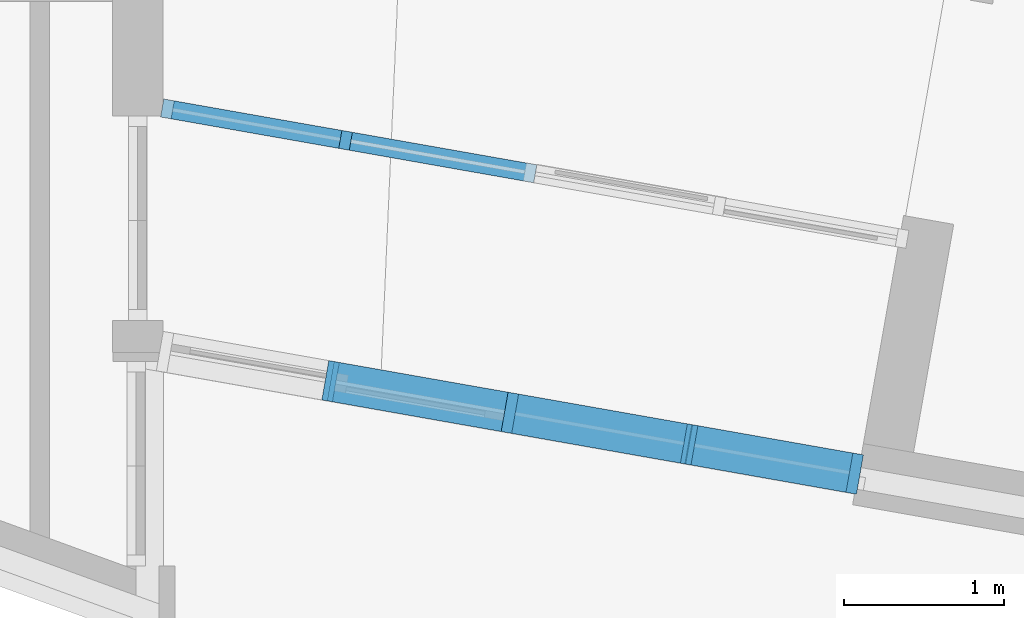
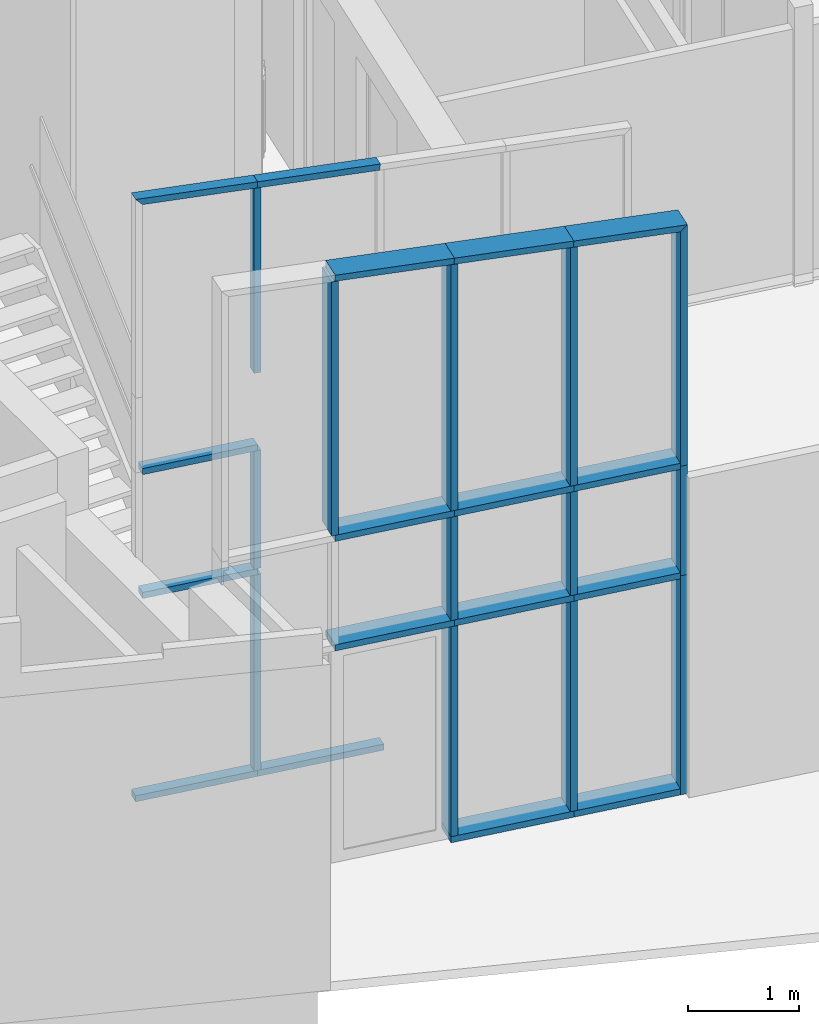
# One storey, part 2 of 21: 30 members, 2 elements without a shape of their own.
"""IFC2X3 building model written with IfcOpenShell, lengths in millimetres."""

from ifc_helpers import new_model, entity, si_unit, converted_unit, derived_unit, direction, frame, origin, origin_2d_with_axis, place, context, subcontext, project, spatial, polyline, rectangle, extrude, clip, halfspace, bounded_halfspace, source, transform, mapped, material, type_object, type_shapes, element, aggregate, save


model = new_model("IFC2X3")

# Units and contexts
model_context = context("Model", 3, precision=0.01, world=origin(), true_north=direction((6.12303176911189e-17, 1.0)))
body_context = subcontext(model_context, "Body", "Model", "MODEL_VIEW")
ifc_project = project(units=[si_unit("LENGTHUNIT", "METRE", prefix="MILLI"), si_unit("AREAUNIT", "SQUARE_METRE"), si_unit("VOLUMEUNIT", "CUBIC_METRE"), converted_unit("PLANEANGLEUNIT", "DEGREE", entity("IfcRatioMeasure", 0.0174532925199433), si_unit("PLANEANGLEUNIT", "RADIAN"), dimensions=[0, 0, 0, 0, 0, 0, 0]), si_unit("MASSUNIT", "GRAM", prefix="KILO"), derived_unit("MASSDENSITYUNIT", [(si_unit("MASSUNIT", "GRAM", prefix="KILO"), 1), (si_unit("LENGTHUNIT", "METRE"), -3)]), si_unit("TIMEUNIT", "SECOND"), si_unit("FREQUENCYUNIT", "HERTZ"), si_unit("THERMODYNAMICTEMPERATUREUNIT", "DEGREE_CELSIUS"), derived_unit("THERMALTRANSMITTANCEUNIT", [(si_unit("MASSUNIT", "GRAM", prefix="KILO"), 1), (si_unit("THERMODYNAMICTEMPERATUREUNIT", "KELVIN"), -1), (si_unit("TIMEUNIT", "SECOND"), -3)]), derived_unit("VOLUMETRICFLOWRATEUNIT", [(si_unit("LENGTHUNIT", "METRE"), 3), (si_unit("TIMEUNIT", "SECOND"), -1)]), si_unit("ELECTRICCURRENTUNIT", "AMPERE"), si_unit("ELECTRICVOLTAGEUNIT", "VOLT"), si_unit("POWERUNIT", "WATT"), si_unit("FORCEUNIT", "NEWTON", prefix="KILO"), si_unit("ILLUMINANCEUNIT", "LUX"), si_unit("LUMINOUSFLUXUNIT", "LUMEN"), si_unit("LUMINOUSINTENSITYUNIT", "CANDELA"), derived_unit("USERDEFINED", [(si_unit("MASSUNIT", "GRAM", prefix="KILO"), -1), (si_unit("LENGTHUNIT", "METRE"), -2), (si_unit("TIMEUNIT", "SECOND"), 3), (si_unit("LUMINOUSFLUXUNIT", "LUMEN"), 1)]), derived_unit("LINEARVELOCITYUNIT", [(si_unit("LENGTHUNIT", "METRE"), 1), (si_unit("TIMEUNIT", "SECOND"), -1)]), si_unit("PRESSUREUNIT", "PASCAL"), derived_unit("USERDEFINED", [(si_unit("LENGTHUNIT", "METRE"), -2), (si_unit("MASSUNIT", "GRAM", prefix="KILO"), 1), (si_unit("TIMEUNIT", "SECOND"), -2)])], contexts=[model_context])

# Site, building, storey
site_placement = place(None, origin())
site = spatial("IfcSite", under=ifc_project, at=site_placement, Name="<Kadaster Gemeente>;<Kadaster nummer>;<Kadaster sectie>", CompositionType="ELEMENT")
building_placement = place(site_placement, origin())
building = spatial("IfcBuilding", under=site, at=building_placement, Name="JRCZ Middelburg", CompositionType="ELEMENT")
storey_placement = place(building_placement, origin())
storey = spatial("IfcBuildingStorey", under=building, at=storey_placement, Name="00 begane grond", CompositionType="ELEMENT", Elevation=0.0)

# Curtain wall, members
curtain_wall_type_1 = type_object("IfcCurtainWallType", Name="Curtain Wall:vliesgevel B", PredefinedType="NOTDEFINED")
curtain_wall_1_placement = place(storey_placement, origin())
curtain_wall_1 = element("IfcCurtainWall", 1, at=curtain_wall_1_placement, inside=storey, type_object=curtain_wall_type_1, Name="Curtain Wall:vliesgevel B", ObjectType="Curtain Wall:vliesgevel B")
ifc_material_1 = material(Name="RBM_i2_binnenkozijn")
member_type_1 = type_object("IfcMemberType", Name="32_CWM_067x114", PredefinedType="MEMBER")
shared_shape_1 = source(origin(), body_context, "Body", "SweptSolid", [
    extrude(rectangle(XDim=113.999999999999, YDim=67.0, at=origin_2d_with_axis()), frame((0.0, 0.0, -2144.16666666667), z_axis=(0.0, 0.0, 1.0), x_axis=(0.0, -1.0, 0.0)), (0.0, 0.0, 1.0), 2144.16666666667),
])
type_shapes(member_type_1, [shared_shape_1])
member_1_placement = place(storey_placement, frame((18510.4603234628, 8975.91689132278, 67.0), z_axis=(0.0, 0.0, -1.0), x_axis=(0.984807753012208, -0.173648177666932, 0.0)))
member_1 = element("IfcMember", 2, at=member_1_placement, type_object=member_type_1, material=ifc_material_1, Name="Rectangular Mullion:32_CWM_067x114", ObjectType="Rectangular Mullion:32_CWM_067x114", context=body_context, shape_type="MappedRepresentation", body=[
    mapped(shared_shape_1, transform((0.0, 0.0, 0.0), scale=1.0)),
])
member_type_2 = type_object("IfcMemberType", Name="32_CWM_067x114", PredefinedType="MEMBER")
shared_shape_2 = source(origin(), body_context, "Body", "SweptSolid", [
    extrude(rectangle(XDim=113.999999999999, YDim=67.0, at=origin_2d_with_axis()), frame((-33.5, 0.0, -1165.92331848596), z_axis=(0.0, 0.0, 1.0), x_axis=(0.0, -1.0, 0.0)), (0.0, 0.0, 1.0), 1165.92331848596),
])
type_shapes(member_type_2, [shared_shape_2])
member_2_placement = place(storey_placement, frame((17362.2500000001, 9178.37735087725, 0.0), z_axis=(-0.984807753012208, 0.173648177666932, 0.0), x_axis=(0.0, 0.0, -1.0)))
member_2 = element("IfcMember", 3, at=member_2_placement, type_object=member_type_2, material=ifc_material_1, Name="Rectangular Mullion:32_CWM_067x114", ObjectType="Rectangular Mullion:32_CWM_067x114", context=body_context, shape_type="MappedRepresentation", body=[
    mapped(shared_shape_2, transform((0.0, 0.0, 0.0), scale=1.0)),
])
member_type_3 = type_object("IfcMemberType", Name="32_CWM_067x114", PredefinedType="MEMBER")
shared_shape_3 = source(origin(), body_context, "Body", "SweptSolid", [
    extrude(rectangle(XDim=113.999999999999, YDim=67.0, at=origin_2d_with_axis()), frame((0.0, 0.0, -1290.66666666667), z_axis=(0.0, 0.0, 1.0), x_axis=(0.0, -1.0, 0.0)), (0.0, 0.0, 1.0), 1290.66666666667),
])
type_shapes(member_type_3, [shared_shape_3])
member_3_placement = place(storey_placement, frame((18510.4603234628, 8975.91689132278, 2278.16666666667), z_axis=(0.0, 0.0, -1.0), x_axis=(0.984807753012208, -0.173648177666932, 0.0)))
member_3 = element("IfcMember", 4, at=member_3_placement, type_object=member_type_3, material=ifc_material_1, Name="Rectangular Mullion:32_CWM_067x114", ObjectType="Rectangular Mullion:32_CWM_067x114", context=body_context, shape_type="MappedRepresentation", body=[
    mapped(shared_shape_3, transform((0.0, 0.0, 0.0), scale=1.0)),
])
member_type_4 = type_object("IfcMemberType", Name="32_CWM_067x114", PredefinedType="MEMBER")
shared_shape_4 = source(origin(), body_context, "Body", "SweptSolid", [
    extrude(rectangle(XDim=113.999999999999, YDim=67.0, at=origin_2d_with_axis()), frame((0.0, 0.0, -1098.92331848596), z_axis=(0.0, 0.0, 1.0), x_axis=(0.0, -1.0, 0.0)), (0.0, 0.0, 1.0), 1098.92331848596),
])
type_shapes(member_type_4, [shared_shape_4])
member_4_placement = place(storey_placement, frame((18510.4603234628, 8975.91689132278, 2244.66666666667), z_axis=(0.984807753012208, -0.173648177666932, 0.0), x_axis=(0.0, 0.0, 1.0)))
member_4 = element("IfcMember", 5, at=member_4_placement, type_object=member_type_4, material=ifc_material_1, Name="Rectangular Mullion:32_CWM_067x114", ObjectType="Rectangular Mullion:32_CWM_067x114", context=body_context, shape_type="MappedRepresentation", body=[
    mapped(shared_shape_4, transform((0.0, 0.0, 0.0), scale=1.0)),
])
member_5_placement = place(storey_placement, frame((18510.4603234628, 8975.91689132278, 3602.33333333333), z_axis=(0.984807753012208, -0.173648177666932, 0.0), x_axis=(0.0, 0.0, 1.0)))
member_5 = element("IfcMember", 6, at=member_5_placement, type_object=member_type_4, material=ifc_material_1, Name="Rectangular Mullion:32_CWM_067x114", ObjectType="Rectangular Mullion:32_CWM_067x114", context=body_context, shape_type="MappedRepresentation", body=[
    mapped(shared_shape_4, transform((0.0, 0.0, 0.0), scale=1.0)),
])
member_type_5 = type_object("IfcMemberType", Name="32_CWM_067x114", PredefinedType="MEMBER")
shared_shape_5 = source(origin(), body_context, "Body", "SweptSolid", [
    extrude(rectangle(XDim=113.999999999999, YDim=67.0, at=origin_2d_with_axis()), frame((-33.5, 0.0, -1175.37505643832), z_axis=(0.0, 0.0, 1.0), x_axis=(0.0, -1.0, 0.0)), (0.0, 0.0, 1.0), 1175.37505643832),
])
type_shapes(member_type_5, [shared_shape_5])
member_6_placement = place(storey_placement, frame((19664.9206469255, 8772.35438813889, 6429.69699909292), z_axis=(0.982205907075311, -0.173189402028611, -0.0726428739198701), x_axis=(0.0715392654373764, -0.0126143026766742, 0.997358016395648)))
member_6 = element("IfcMember", 7, at=member_6_placement, type_object=member_type_5, material=ifc_material_1, Name="Rectangular Mullion:32_CWM_067x114", ObjectType="Rectangular Mullion:32_CWM_067x114", context=body_context, shape_type="MappedRepresentation", body=[
    mapped(shared_shape_5, transform((0.0, 0.0, 0.0), scale=1.0)),
])
member_type_6 = type_object("IfcMemberType", Name="32_CWM_067x114", PredefinedType="MEMBER")
shared_shape_6 = source(origin(), body_context, "Body", "Clipping", [
    clip(extrude(rectangle(XDim=113.999999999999, YDim=67.0, at=origin_2d_with_axis()), frame((-33.5, 0.0, -1169.01182857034), z_axis=(0.0, 0.0, 1.0), x_axis=(0.0, -1.0, 0.0)), (0.0, 0.0, 1.0), 1169.01182857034), halfspace(frame((0.0, -304.799999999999, -1169.01182857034), z_axis=(-0.73233970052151, 0.0, -0.680939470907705), x_axis=(-0.680939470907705, 0.0, 0.73233970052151)), False)),
])
type_shapes(member_type_6, [shared_shape_6])
member_7_placement = place(storey_placement, frame((18510.4603234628, 8975.91689132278, 6515.07962112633), z_axis=(0.982205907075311, -0.173189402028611, -0.0726428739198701), x_axis=(0.0715392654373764, -0.0126143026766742, 0.997358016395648)))
member_7 = element("IfcMember", 8, at=member_7_placement, type_object=member_type_6, material=ifc_material_1, Name="Rectangular Mullion:32_CWM_067x114", ObjectType="Rectangular Mullion:32_CWM_067x114", context=body_context, shape_type="MappedRepresentation", body=[
    mapped(shared_shape_6, transform((0.0, 0.0, 0.0), scale=1.0)),
])
member_type_7 = type_object("IfcMemberType", Name="32_CWM_067x114", PredefinedType="MEMBER")
shared_shape_7 = source(origin(), body_context, "Body", "SweptSolid", [
    extrude(rectangle(XDim=113.999999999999, YDim=67.0, at=origin_2d_with_axis()), frame((-33.5, 0.0, -1205.76973481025), z_axis=(0.0, 0.0, 1.0), x_axis=(0.0, -1.0, 0.0)), (0.0, 0.0, 1.0), 1205.76973481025),
])
type_shapes(member_type_7, [shared_shape_7])
member_8_placement = place(storey_placement, frame((18510.4603234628, 8975.91689132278, 0.0), z_axis=(-0.984807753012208, 0.173648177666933, 0.0), x_axis=(0.0, 0.0, -1.0)))
member_8 = element("IfcMember", 9, at=member_8_placement, type_object=member_type_7, material=ifc_material_1, Name="Rectangular Mullion:32_CWM_067x114", ObjectType="Rectangular Mullion:32_CWM_067x114", context=body_context, shape_type="MappedRepresentation", body=[
    mapped(shared_shape_7, transform((0.0, 0.0, 0.0), scale=1.0)),
])
member_type_8 = type_object("IfcMemberType", Name="32_CWM_067x114", PredefinedType="MEMBER")
shared_shape_8 = source(origin(), body_context, "Body", "Clipping", [
    clip(clip(extrude(rectangle(XDim=113.999999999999, YDim=67.0, at=origin_2d_with_axis()), frame((0.0, 0.0, -2028.00878865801), z_axis=(0.0, 0.0, 1.0), x_axis=(0.0, -1.0, 0.0)), (0.0, 0.0, 1.0), 2028.00878865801), bounded_halfspace(frame((-4.86707255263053, 57.0, -2025.92330069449), z_axis=(0.0726428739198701, 0.0, -0.997358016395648), x_axis=(-0.997358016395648, 0.0, -0.0726428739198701)), False, frame((0.0, 0.0, -2028.00878865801), z_axis=(0.0, 0.0, 1.0), x_axis=(0.0, -1.0, 0.0)), polyline([(57.0, -4.86707255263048), (57.0, -33.5), (-57.0, -33.5), (-57.0, -4.86707255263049), (57.0, -4.86707255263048)]))), bounded_halfspace(frame((1167.40266225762, 57.0, -1940.54067866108), z_axis=(0.0726428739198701, 0.0, -0.997358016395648), x_axis=(-0.997358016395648, 0.0, -0.0726428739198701)), False, frame((0.0, 0.0, -2028.00878865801), z_axis=(0.0, 0.0, 1.0), x_axis=(0.0, -1.0, 0.0)), polyline([(-57.0, 33.5), (57.0, 33.5), (57.0, -4.86707255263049), (-57.0, -4.86707255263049), (-57.0, 33.5)]))),
])
type_shapes(member_type_8, [shared_shape_8])
member_9_placement = place(storey_placement, frame((18510.4603234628, 8975.91689132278, 4422.33333333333), z_axis=(0.0, 0.0, -1.0), x_axis=(0.984807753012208, -0.173648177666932, 0.0)))
member_9 = element("IfcMember", 10, at=member_9_placement, type_object=member_type_8, material=ifc_material_1, Name="Rectangular Mullion:32_CWM_067x114", ObjectType="Rectangular Mullion:32_CWM_067x114", context=body_context, shape_type="MappedRepresentation", body=[
    mapped(shared_shape_8, transform((0.0, 0.0, 0.0), scale=1.0)),
])
aggregate(curtain_wall_1, [member_2, member_4, member_6, member_5, member_7, member_8, member_1, member_3, member_9])

curtain_wall_type_2 = type_object("IfcCurtainWallType", Name="Curtain Wall:vliesgevel A", PredefinedType="NOTDEFINED")
curtain_wall_2_placement = place(storey_placement, origin())
curtain_wall_2 = element("IfcCurtainWall", 11, at=curtain_wall_2_placement, inside=storey, type_object=curtain_wall_type_2, Name="Curtain Wall:vliesgevel A", ObjectType="Curtain Wall:vliesgevel A")
ifc_material_2 = material(Name="RBM_a_kozijn licht")
member_type_9 = type_object("IfcMemberType", Name="31_CWM_067x114 vliesgevel", PredefinedType="MEMBER")
shared_shape_9 = source(origin(), body_context, "Body", "SweptSolid", [
    extrude(rectangle(XDim=250.0, YDim=67.0, at=origin_2d_with_axis()), frame((0.0, -57.0, -2299.5), z_axis=(0.0, 0.0, 1.0), x_axis=(0.0, -1.0, 0.0)), (0.0, 0.0, 1.0), 2299.5),
])
type_shapes(member_type_9, [shared_shape_9])
member_10_placement = place(storey_placement, frame((19548.7500160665, 7326.56237716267, 67.0), z_axis=(0.0, 0.0, -1.0), x_axis=(-0.984807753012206, 0.173648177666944, 0.0)))
member_10 = element("IfcMember", 12, at=member_10_placement, type_object=member_type_9, material=ifc_material_2, Name="Rectangular Mullion:31_CWM_067x114 vliesgevel", ObjectType="Rectangular Mullion:31_CWM_067x114 vliesgevel", context=body_context, shape_type="MappedRepresentation", body=[
    mapped(shared_shape_9, transform((0.0, 0.0, 0.0), scale=1.0)),
])
member_11_placement = place(storey_placement, frame((20670.9963109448, 7128.68007637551, 67.0), z_axis=(0.0, 0.0, -1.0), x_axis=(-0.984807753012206, 0.173648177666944, 0.0)))
member_11 = element("IfcMember", 13, at=member_11_placement, type_object=member_type_9, material=ifc_material_2, Name="Rectangular Mullion:31_CWM_067x114 vliesgevel", ObjectType="Rectangular Mullion:31_CWM_067x114 vliesgevel", context=body_context, shape_type="MappedRepresentation", body=[
    mapped(shared_shape_9, transform((0.0, 0.0, 0.0), scale=1.0)),
])
member_type_10 = type_object("IfcMemberType", Name="31_CWM_067x114 vliesgevel", PredefinedType="MEMBER")
shared_shape_10 = source(origin(), body_context, "Body", "SweptSolid", [
    extrude(rectangle(XDim=250.0, YDim=67.0, at=origin_2d_with_axis()), frame((0.0, -57.0, -1133.0), z_axis=(0.0, 0.0, 1.0), x_axis=(0.0, -1.0, 0.0)), (0.0, 0.0, 1.0), 1133.0),
])
type_shapes(member_type_10, [shared_shape_10])
member_12_placement = place(storey_placement, frame((20670.9963109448, 7128.68007637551, 2433.5), z_axis=(0.0, 0.0, -1.0), x_axis=(-0.984807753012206, 0.173648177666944, 0.0)))
member_12 = element("IfcMember", 14, at=member_12_placement, type_object=member_type_10, material=ifc_material_2, Name="Rectangular Mullion:31_CWM_067x114 vliesgevel", ObjectType="Rectangular Mullion:31_CWM_067x114 vliesgevel", context=body_context, shape_type="MappedRepresentation", body=[
    mapped(shared_shape_10, transform((0.0, 0.0, 0.0), scale=1.0)),
])
member_13_placement = place(storey_placement, frame((19548.7500160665, 7326.56237716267, 2433.5), z_axis=(0.0, 0.0, -1.0), x_axis=(-0.984807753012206, 0.173648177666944, 0.0)))
member_13 = element("IfcMember", 15, at=member_13_placement, type_object=member_type_10, material=ifc_material_2, Name="Rectangular Mullion:31_CWM_067x114 vliesgevel", ObjectType="Rectangular Mullion:31_CWM_067x114 vliesgevel", context=body_context, shape_type="MappedRepresentation", body=[
    mapped(shared_shape_10, transform((0.0, 0.0, 0.0), scale=1.0)),
])
member_type_11 = type_object("IfcMemberType", Name="31_CWM_067x114 vliesgevel", PredefinedType="MEMBER")
shared_shape_11 = source(origin(), body_context, "Body", "SweptSolid", [
    extrude(rectangle(XDim=250.0, YDim=67.0, at=origin_2d_with_axis()), frame((-33.5, -57.0, -2400.0), z_axis=(0.0, 0.0, 1.0), x_axis=(0.0, -1.0, 0.0)), (0.0, 0.0, 1.0), 2400.0),
])
type_shapes(member_type_11, [shared_shape_11])
member_14_placement = place(storey_placement, frame((21740.0629871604, 6940.17477718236, 2400.0), z_axis=(0.0, 0.0, 1.0), x_axis=(0.984807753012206, -0.173648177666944, 0.0)))
member_14 = element("IfcMember", 16, at=member_14_placement, type_object=member_type_11, material=ifc_material_2, Name="Rectangular Mullion:31_CWM_067x114 vliesgevel", ObjectType="Rectangular Mullion:31_CWM_067x114 vliesgevel", context=body_context, shape_type="MappedRepresentation", body=[
    mapped(shared_shape_11, transform((0.0, 0.0, 0.0), scale=1.0)),
])
member_type_12 = type_object("IfcMemberType", Name="31_CWM_067x114 vliesgevel", PredefinedType="MEMBER")
shared_shape_12 = source(origin(), body_context, "Body", "SweptSolid", [
    extrude(rectangle(XDim=250.0, YDim=67.0, at=origin_2d_with_axis()), frame((-33.5, -57.0, -1200.0), z_axis=(0.0, 0.0, 1.0), x_axis=(0.0, -1.0, 0.0)), (0.0, 0.0, 1.0), 1200.0),
])
type_shapes(member_type_12, [shared_shape_12])
member_15_placement = place(storey_placement, frame((21740.0629871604, 6940.17477718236, 3600.0), z_axis=(0.0, 0.0, 1.0), x_axis=(0.984807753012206, -0.173648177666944, 0.0)))
member_15 = element("IfcMember", 17, at=member_15_placement, type_object=member_type_12, material=ifc_material_2, Name="Rectangular Mullion:31_CWM_067x114 vliesgevel", ObjectType="Rectangular Mullion:31_CWM_067x114 vliesgevel", context=body_context, shape_type="MappedRepresentation", body=[
    mapped(shared_shape_12, transform((0.0, 0.0, 0.0), scale=1.0)),
])
member_type_13 = type_object("IfcMemberType", Name="31_CWM_067x114 vliesgevel", PredefinedType="MEMBER")
shared_shape_13 = source(origin(), body_context, "Body", "SweptSolid", [
    extrude(rectangle(XDim=250.0, YDim=67.0, at=origin_2d_with_axis()), frame((-33.5, -57.0, -1018.55875290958), z_axis=(0.0, 0.0, 1.0), x_axis=(0.0, -1.0, 0.0)), (0.0, 0.0, 1.0), 1018.55875290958),
])
type_shapes(member_type_13, [shared_shape_13])
member_16_placement = place(storey_placement, frame((21674.0808677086, 6951.80920508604, 0.0), z_axis=(0.984807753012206, -0.173648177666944, 0.0), x_axis=(0.0, 0.0, -1.0)))
member_16 = element("IfcMember", 18, at=member_16_placement, type_object=member_type_13, material=ifc_material_2, Name="Rectangular Mullion:31_CWM_067x114 vliesgevel", ObjectType="Rectangular Mullion:31_CWM_067x114 vliesgevel", context=body_context, shape_type="MappedRepresentation", body=[
    mapped(shared_shape_13, transform((0.0, 0.0, 0.0), scale=1.0)),
])
member_type_14 = type_object("IfcMemberType", Name="31_CWM_067x114 vliesgevel", PredefinedType="MEMBER")
shared_shape_14 = source(origin(), body_context, "Body", "Clipping", [
    clip(extrude(rectangle(XDim=250.0, YDim=67.0, at=origin_2d_with_axis()), frame((-33.5, -57.0, -2630.80126207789), z_axis=(0.0, 0.0, 1.0), x_axis=(0.0, -1.0, 0.0)), (0.0, 0.0, 1.0), 2630.80126207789), halfspace(frame((0.0, -304.8, 0.0), z_axis=(-0.680150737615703, 0.0, 0.733072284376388), x_axis=(-0.733072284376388, 0.0, -0.680150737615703)), False)),
])
type_shapes(member_type_14, [shared_shape_14])
member_17_placement = place(storey_placement, frame((21740.0629871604, 6940.17477718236, 6230.80126207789), z_axis=(0.0, 0.0, 1.0), x_axis=(0.984807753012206, -0.173648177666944, 0.0)))
member_17 = element("IfcMember", 19, at=member_17_placement, type_object=member_type_14, material=ifc_material_2, Name="Rectangular Mullion:31_CWM_067x114 vliesgevel", ObjectType="Rectangular Mullion:31_CWM_067x114 vliesgevel", context=body_context, shape_type="MappedRepresentation", body=[
    mapped(shared_shape_14, transform((0.0, 0.0, 0.0), scale=1.0)),
])
member_type_15 = type_object("IfcMemberType", Name="31_CWM_067x114 vliesgevel", PredefinedType="MEMBER")
shared_shape_15 = source(origin(), body_context, "Body", "SweptSolid", [
    extrude(rectangle(XDim=250.0, YDim=67.0, at=origin_2d_with_axis()), frame((-33.5, -57.0, -1142.75926748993), z_axis=(0.0, 0.0, 1.0), x_axis=(0.0, -1.0, 0.0)), (0.0, 0.0, 1.0), 1142.75926748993),
])
type_shapes(member_type_15, [shared_shape_15])
member_18_placement = place(storey_placement, frame((19548.7500160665, 7326.56237716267, 6397.68507501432), z_axis=(-0.982049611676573, 0.173161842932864, 0.0747899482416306), x_axis=(0.0736537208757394, -0.0129871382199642, 0.997199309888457)))
member_18 = element("IfcMember", 20, at=member_18_placement, type_object=member_type_15, material=ifc_material_2, Name="Rectangular Mullion:31_CWM_067x114 vliesgevel", ObjectType="Rectangular Mullion:31_CWM_067x114 vliesgevel", context=body_context, shape_type="MappedRepresentation", body=[
    mapped(shared_shape_15, transform((0.0, 0.0, 0.0), scale=1.0)),
])
member_type_16 = type_object("IfcMemberType", Name="31_CWM_067x114 vliesgevel", PredefinedType="MEMBER")
shared_shape_16 = source(origin(), body_context, "Body", "SweptSolid", [
    extrude(rectangle(XDim=250.0, YDim=67.0, at=origin_2d_with_axis()), frame((-33.5, -57.0, -1142.75926748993), z_axis=(0.0, 0.0, 1.0), x_axis=(0.0, -1.0, 0.0)), (0.0, 0.0, 1.0), 1142.75926748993),
])
type_shapes(member_type_16, [shared_shape_16])
member_19_placement = place(storey_placement, frame((18426.5037211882, 7524.44467794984, 6483.15198148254), z_axis=(-0.982049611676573, 0.173161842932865, 0.0747899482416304), x_axis=(0.0736537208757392, -0.0129871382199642, 0.997199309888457)))
member_19 = element("IfcMember", 21, at=member_19_placement, type_object=member_type_16, material=ifc_material_2, Name="Rectangular Mullion:31_CWM_067x114 vliesgevel", ObjectType="Rectangular Mullion:31_CWM_067x114 vliesgevel", context=body_context, shape_type="MappedRepresentation", body=[
    mapped(shared_shape_16, transform((0.0, 0.0, 0.0), scale=1.0)),
])
member_type_17 = type_object("IfcMemberType", Name="31_CWM_067x114 vliesgevel", PredefinedType="MEMBER")
shared_shape_17 = source(origin(), body_context, "Body", "Clipping", [
    clip(extrude(rectangle(XDim=250.0, YDim=67.0, at=origin_2d_with_axis()), frame((-33.5, -57.0, -1088.60760546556), z_axis=(0.0, 0.0, 1.0), x_axis=(0.0, -1.0, 0.0)), (0.0, 0.0, 1.0), 1088.60760546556), halfspace(frame((0.0, -304.8, -1088.60760546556), z_axis=(-0.680150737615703, 0.0, -0.733072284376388), x_axis=(-0.733072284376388, 0.0, 0.680150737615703)), False)),
])
type_shapes(member_type_17, [shared_shape_17])
member_20_placement = place(storey_placement, frame((20670.9963109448, 7128.68007637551, 6312.21816854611), z_axis=(-0.982049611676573, 0.173161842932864, 0.0747899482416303), x_axis=(0.0736537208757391, -0.0129871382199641, 0.997199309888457)))
member_20 = element("IfcMember", 22, at=member_20_placement, type_object=member_type_17, material=ifc_material_2, Name="Rectangular Mullion:31_CWM_067x114 vliesgevel", ObjectType="Rectangular Mullion:31_CWM_067x114 vliesgevel", context=body_context, shape_type="MappedRepresentation", body=[
    mapped(shared_shape_17, transform((0.0, 0.0, 0.0), scale=1.0)),
])
member_type_18 = type_object("IfcMemberType", Name="31_CWM_067x114 vliesgevel", PredefinedType="MEMBER")
shared_shape_18 = source(origin(), body_context, "Body", "SweptSolid", [
    extrude(rectangle(XDim=250.0, YDim=67.0, at=origin_2d_with_axis()), frame((-33.5, -57.0, -1173.05875290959), z_axis=(0.0, 0.0, 1.0), x_axis=(0.0, -1.0, 0.0)), (0.0, 0.0, 1.0), 1173.05875290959),
])
type_shapes(member_type_18, [shared_shape_18])
member_21_placement = place(storey_placement, frame((20670.9963109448, 7128.68007637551, 0.0), z_axis=(0.984807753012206, -0.173648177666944, 0.0), x_axis=(0.0, 0.0, -1.0)))
member_21 = element("IfcMember", 23, at=member_21_placement, type_object=member_type_18, material=ifc_material_2, Name="Rectangular Mullion:31_CWM_067x114 vliesgevel", ObjectType="Rectangular Mullion:31_CWM_067x114 vliesgevel", context=body_context, shape_type="MappedRepresentation", body=[
    mapped(shared_shape_18, transform((0.0, 0.0, 0.0), scale=1.0)),
])
member_type_19 = type_object("IfcMemberType", Name="31_CWM_067x114 vliesgevel", PredefinedType="MEMBER")
shared_shape_19 = source(origin(), body_context, "Body", "SweptSolid", [
    extrude(rectangle(XDim=250.0, YDim=67.0, at=origin_2d_with_axis()), frame((0.0, -57.0, -1018.55875290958), z_axis=(0.0, 0.0, 1.0), x_axis=(0.0, -1.0, 0.0)), (0.0, 0.0, 1.0), 1018.55875290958),
])
type_shapes(member_type_19, [shared_shape_19])
member_22_placement = place(storey_placement, frame((20670.9963109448, 7128.68007637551, 2400.0), z_axis=(-0.984807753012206, 0.173648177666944, 0.0), x_axis=(0.0, 0.0, 1.0)))
member_22 = element("IfcMember", 24, at=member_22_placement, type_object=member_type_19, material=ifc_material_2, Name="Rectangular Mullion:31_CWM_067x114 vliesgevel", ObjectType="Rectangular Mullion:31_CWM_067x114 vliesgevel", context=body_context, shape_type="MappedRepresentation", body=[
    mapped(shared_shape_19, transform((0.0, 0.0, 0.0), scale=1.0)),
])
member_23_placement = place(storey_placement, frame((20670.9963109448, 7128.68007637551, 3600.0), z_axis=(-0.984807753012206, 0.173648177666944, 0.0), x_axis=(0.0, 0.0, 1.0)))
member_23 = element("IfcMember", 25, at=member_23_placement, type_object=member_type_19, material=ifc_material_2, Name="Rectangular Mullion:31_CWM_067x114 vliesgevel", ObjectType="Rectangular Mullion:31_CWM_067x114 vliesgevel", context=body_context, shape_type="MappedRepresentation", body=[
    mapped(shared_shape_19, transform((0.0, 0.0, 0.0), scale=1.0)),
])
member_type_20 = type_object("IfcMemberType", Name="31_CWM_067x114 vliesgevel", PredefinedType="MEMBER")
shared_shape_20 = source(origin(), body_context, "Body", "SweptSolid", [
    extrude(rectangle(XDim=250.0, YDim=67.0, at=origin_2d_with_axis()), frame((0.0, -57.0, -1139.55875290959), z_axis=(0.0, 0.0, 1.0), x_axis=(0.0, -1.0, 0.0)), (0.0, 0.0, 1.0), 1139.55875290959),
])
type_shapes(member_type_20, [shared_shape_20])
member_24_placement = place(storey_placement, frame((19548.7500160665, 7326.56237716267, 2400.0), z_axis=(-0.984807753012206, 0.173648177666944, 0.0), x_axis=(0.0, 0.0, 1.0)))
member_24 = element("IfcMember", 26, at=member_24_placement, type_object=member_type_20, material=ifc_material_2, Name="Rectangular Mullion:31_CWM_067x114 vliesgevel", ObjectType="Rectangular Mullion:31_CWM_067x114 vliesgevel", context=body_context, shape_type="MappedRepresentation", body=[
    mapped(shared_shape_20, transform((0.0, 0.0, 0.0), scale=1.0)),
])
member_25_placement = place(storey_placement, frame((18426.5037211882, 7524.44467794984, 2400.0), z_axis=(-0.984807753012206, 0.173648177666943, 0.0), x_axis=(0.0, 0.0, 1.0)))
member_25 = element("IfcMember", 27, at=member_25_placement, type_object=member_type_20, material=ifc_material_2, Name="Rectangular Mullion:31_CWM_067x114 vliesgevel", ObjectType="Rectangular Mullion:31_CWM_067x114 vliesgevel", context=body_context, shape_type="MappedRepresentation", body=[
    mapped(shared_shape_20, transform((0.0, 0.0, 0.0), scale=1.0)),
])
member_26_placement = place(storey_placement, frame((19548.7500160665, 7326.56237716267, 3600.0), z_axis=(-0.984807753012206, 0.173648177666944, 0.0), x_axis=(0.0, 0.0, 1.0)))
member_26 = element("IfcMember", 28, at=member_26_placement, type_object=member_type_20, material=ifc_material_2, Name="Rectangular Mullion:31_CWM_067x114 vliesgevel", ObjectType="Rectangular Mullion:31_CWM_067x114 vliesgevel", context=body_context, shape_type="MappedRepresentation", body=[
    mapped(shared_shape_20, transform((0.0, 0.0, 0.0), scale=1.0)),
])
member_27_placement = place(storey_placement, frame((18426.5037211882, 7524.44467794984, 3600.0), z_axis=(-0.984807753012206, 0.173648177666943, 0.0), x_axis=(0.0, 0.0, 1.0)))
member_27 = element("IfcMember", 29, at=member_27_placement, type_object=member_type_20, material=ifc_material_2, Name="Rectangular Mullion:31_CWM_067x114 vliesgevel", ObjectType="Rectangular Mullion:31_CWM_067x114 vliesgevel", context=body_context, shape_type="MappedRepresentation", body=[
    mapped(shared_shape_20, transform((0.0, 0.0, 0.0), scale=1.0)),
])
member_type_21 = type_object("IfcMemberType", Name="31_CWM_067x114 vliesgevel", PredefinedType="MEMBER")
shared_shape_21 = source(origin(), body_context, "Body", "Clipping", [
    clip(clip(extrude(rectangle(XDim=250.000000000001, YDim=67.0, at=origin_2d_with_axis()), frame((0.0, -57.0, -2614.04249529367), z_axis=(0.0, 0.0, 1.0), x_axis=(0.0, -1.0, 0.0)), (0.0, 0.0, 1.0), 2614.04249529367), bounded_halfspace(frame((1144.56967944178, 68.0, -2697.3727212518), z_axis=(-0.0747899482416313, 0.0, -0.997199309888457), x_axis=(-0.997199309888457, 0.0, 0.0747899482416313)), False, frame((0.0, -57.0, -2614.04249529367), z_axis=(0.0, 0.0, 1.0), x_axis=(0.0, -1.0, 0.0)), polyline([(-125.0, 33.5), (125.0, 33.5), (125.0, 5.01092653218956), (-125.0, 5.01092653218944), (-125.0, 33.5)]))), bounded_halfspace(frame((5.01092653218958, 68.0, -2611.90581478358), z_axis=(-0.074789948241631, 0.0, -0.997199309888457), x_axis=(-0.997199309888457, 0.0, 0.074789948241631)), False, frame((0.0, -57.0, -2614.04249529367), z_axis=(0.0, 0.0, 1.0), x_axis=(0.0, -1.0, 0.0)), polyline([(125.0, 5.01092653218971), (125.0, -33.5), (-125.0, -33.5), (-125.0, 5.01092653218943), (125.0, 5.01092653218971)]))),
])
type_shapes(member_type_21, [shared_shape_21])
member_28_placement = place(storey_placement, frame((20670.9963109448, 7128.68007637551, 3633.5), z_axis=(0.0, 0.0, -1.0), x_axis=(-0.984807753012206, 0.173648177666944, 0.0)))
member_28 = element("IfcMember", 30, at=member_28_placement, type_object=member_type_21, material=ifc_material_2, Name="Rectangular Mullion:31_CWM_067x114 vliesgevel", ObjectType="Rectangular Mullion:31_CWM_067x114 vliesgevel", context=body_context, shape_type="MappedRepresentation", body=[
    mapped(shared_shape_21, transform((0.0, 0.0, 0.0), scale=1.0)),
])
member_type_22 = type_object("IfcMemberType", Name="31_CWM_067x114 vliesgevel", PredefinedType="MEMBER")
shared_shape_22 = source(origin(), body_context, "Body", "Clipping", [
    clip(clip(extrude(rectangle(XDim=250.0, YDim=67.0, at=origin_2d_with_axis()), frame((0.0, -57.0, -2699.50940176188), z_axis=(0.0, 0.0, 1.0), x_axis=(0.0, -1.0, 0.0)), (0.0, 0.0, 1.0), 2699.50940176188), bounded_halfspace(frame((1144.56967944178, 68.0, -2782.83962772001), z_axis=(-0.0747899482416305, 0.0, -0.997199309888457), x_axis=(-0.997199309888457, 0.0, 0.0747899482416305)), False, frame((0.0, -57.0, -2699.50940176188), z_axis=(0.0, 0.0, 1.0), x_axis=(0.0, -1.0, 0.0)), polyline([(-125.0, 33.5), (125.0, 33.5), (125.0, 5.01092653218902), (-125.0, 5.01092653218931), (-125.0, 33.5)]))), bounded_halfspace(frame((5.01092653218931, 68.0, -2697.3727212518), z_axis=(-0.0747899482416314, 0.0, -0.997199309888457), x_axis=(-0.997199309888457, 0.0, 0.0747899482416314)), False, frame((0.0, -57.0, -2699.50940176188), z_axis=(0.0, 0.0, 1.0), x_axis=(0.0, -1.0, 0.0)), polyline([(125.0, 5.01092653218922), (125.0, -33.5), (-125.0, -33.5), (-125.0, 5.01092653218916), (125.0, 5.01092653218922)]))),
])
type_shapes(member_type_22, [shared_shape_22])
member_29_placement = place(storey_placement, frame((19548.7500160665, 7326.56237716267, 3633.5), z_axis=(0.0, 0.0, -1.0), x_axis=(-0.984807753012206, 0.173648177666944, 0.0)))
member_29 = element("IfcMember", 31, at=member_29_placement, type_object=member_type_22, material=ifc_material_2, Name="Rectangular Mullion:31_CWM_067x114 vliesgevel", ObjectType="Rectangular Mullion:31_CWM_067x114 vliesgevel", context=body_context, shape_type="MappedRepresentation", body=[
    mapped(shared_shape_22, transform((0.0, 0.0, 0.0), scale=1.0)),
])
member_type_23 = type_object("IfcMemberType", Name="31_CWM_067x114 vliesgevel", PredefinedType="MEMBER")
shared_shape_23 = source(origin(), body_context, "Body", "Clipping", [
    clip(clip(extrude(rectangle(XDim=250.0, YDim=67.0, at=origin_2d_with_axis()), frame((0.0, -57.0, -2784.9763082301), z_axis=(0.0, 0.0, 1.0), x_axis=(0.0, -1.0, 0.0)), (0.0, 0.0, 1.0), 2784.9763082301), bounded_halfspace(frame((1090.64844079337, 68.0, -2864.2624412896), z_axis=(-0.0747899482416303, 0.0, -0.997199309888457), x_axis=(-0.997199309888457, 0.0, 0.0747899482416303)), False, frame((0.0, -57.0, -2784.9763082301), z_axis=(0.0, 0.0, 1.0), x_axis=(0.0, -1.0, 0.0)), polyline([(-125.0, 33.5), (125.0, 33.5), (125.0, 5.01092653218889), (-125.0, 5.01092653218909), (-125.0, 33.5)]))), bounded_halfspace(frame((5.01092653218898, 68.0, -2782.83962772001), z_axis=(-0.0747899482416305, 0.0, -0.997199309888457), x_axis=(-0.997199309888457, 0.0, 0.0747899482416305)), False, frame((0.0, -57.0, -2784.9763082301), z_axis=(0.0, 0.0, 1.0), x_axis=(0.0, -1.0, 0.0)), polyline([(125.0, 5.01092653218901), (125.0, -33.5), (-125.0, -33.5), (-125.0, 5.01092653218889), (125.0, 5.01092653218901)]))),
])
type_shapes(member_type_23, [shared_shape_23])
member_30_placement = place(storey_placement, frame((18426.5037211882, 7524.44467794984, 3633.5), z_axis=(0.0, 0.0, -1.0), x_axis=(-0.984807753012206, 0.173648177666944, 0.0)))
member_30 = element("IfcMember", 32, at=member_30_placement, type_object=member_type_23, material=ifc_material_2, Name="Rectangular Mullion:31_CWM_067x114 vliesgevel", ObjectType="Rectangular Mullion:31_CWM_067x114 vliesgevel", context=body_context, shape_type="MappedRepresentation", body=[
    mapped(shared_shape_23, transform((0.0, 0.0, 0.0), scale=1.0)),
])
aggregate(curtain_wall_2, [member_16, member_17, member_18, member_10, member_19, member_20, member_21, member_11, member_14, member_22, member_24, member_25, member_12, member_13, member_15, member_23, member_26, member_27, member_28, member_29, member_30])

save(model, "model.ifc")
